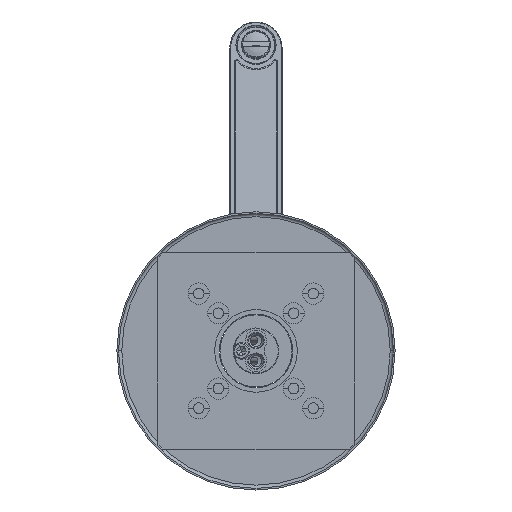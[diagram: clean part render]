
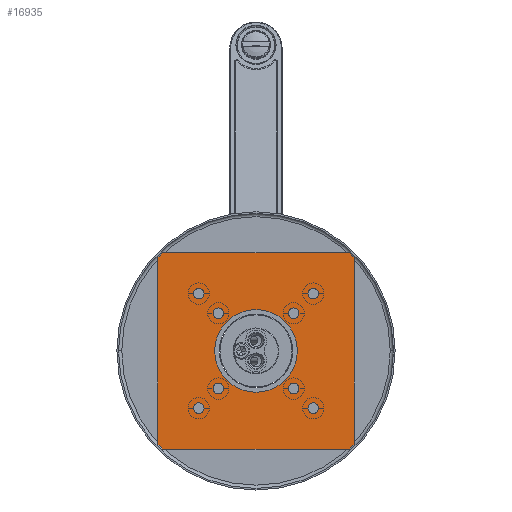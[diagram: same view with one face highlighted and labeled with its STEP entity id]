
A CAD part, front view. The second image highlights one B-rep face of the part: STEP entity #16935.
In plain terms, the highlighted planar face has unit normal (0, -1, 0).
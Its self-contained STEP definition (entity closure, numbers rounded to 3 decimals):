
#16191=DIRECTION('',(-0.707,0.,-0.707));
#16192=VECTOR('',#16191,4.243);
#16193=CARTESIAN_POINT('',(-57.,-916.,60.));
#16194=LINE('',#16193,#16192);
#16195=DIRECTION('',(-1.,0.,0.));
#16196=VECTOR('',#16195,114.);
#16197=CARTESIAN_POINT('',(57.,-916.,60.));
#16198=LINE('',#16197,#16196);
#16199=DIRECTION('',(-0.707,0.,0.707));
#16200=VECTOR('',#16199,4.243);
#16201=CARTESIAN_POINT('',(60.,-916.,57.));
#16202=LINE('',#16201,#16200);
#16203=DIRECTION('',(0.,0.,1.));
#16204=VECTOR('',#16203,114.);
#16205=CARTESIAN_POINT('',(60.,-916.,-57.));
#16206=LINE('',#16205,#16204);
#16207=DIRECTION('',(0.707,0.,0.707));
#16208=VECTOR('',#16207,4.243);
#16209=CARTESIAN_POINT('',(57.,-916.,-60.));
#16210=LINE('',#16209,#16208);
#16211=DIRECTION('',(1.,0.,0.));
#16212=VECTOR('',#16211,114.);
#16213=CARTESIAN_POINT('',(-57.,-916.,-60.));
#16214=LINE('',#16213,#16212);
#16215=DIRECTION('',(0.707,0.,-0.707));
#16216=VECTOR('',#16215,4.243);
#16217=CARTESIAN_POINT('',(-60.,-916.,-57.));
#16218=LINE('',#16217,#16216);
#16219=DIRECTION('',(0.,0.,-1.));
#16220=VECTOR('',#16219,114.);
#16221=CARTESIAN_POINT('',(-60.,-916.,57.));
#16222=LINE('',#16221,#16220);
#16223=CARTESIAN_POINT('',(-35.,-916.,35.));
#16224=DIRECTION('',(0.,1.,0.));
#16225=DIRECTION('',(1.,0.,0.));
#16226=AXIS2_PLACEMENT_3D('',#16223,#16224,#16225);
#16228=CARTESIAN_POINT('',(-35.,-916.,35.));
#16229=DIRECTION('',(0.,1.,0.));
#16230=DIRECTION('',(-1.,0.,0.));
#16231=AXIS2_PLACEMENT_3D('',#16228,#16229,#16230);
#16233=CARTESIAN_POINT('',(35.,-916.,35.));
#16234=DIRECTION('',(0.,1.,0.));
#16235=DIRECTION('',(1.,0.,0.));
#16236=AXIS2_PLACEMENT_3D('',#16233,#16234,#16235);
#16238=CARTESIAN_POINT('',(35.,-916.,35.));
#16239=DIRECTION('',(0.,1.,0.));
#16240=DIRECTION('',(-1.,0.,0.));
#16241=AXIS2_PLACEMENT_3D('',#16238,#16239,#16240);
#16243=CARTESIAN_POINT('',(35.,-916.,-35.));
#16244=DIRECTION('',(0.,1.,0.));
#16245=DIRECTION('',(1.,0.,0.));
#16246=AXIS2_PLACEMENT_3D('',#16243,#16244,#16245);
#16248=CARTESIAN_POINT('',(35.,-916.,-35.));
#16249=DIRECTION('',(0.,1.,0.));
#16250=DIRECTION('',(-1.,0.,0.));
#16251=AXIS2_PLACEMENT_3D('',#16248,#16249,#16250);
#16253=CARTESIAN_POINT('',(-35.,-916.,-35.));
#16254=DIRECTION('',(0.,1.,0.));
#16255=DIRECTION('',(1.,0.,0.));
#16256=AXIS2_PLACEMENT_3D('',#16253,#16254,#16255);
#16258=CARTESIAN_POINT('',(-35.,-916.,-35.));
#16259=DIRECTION('',(0.,1.,0.));
#16260=DIRECTION('',(-1.,0.,0.));
#16261=AXIS2_PLACEMENT_3D('',#16258,#16259,#16260);
#16263=CARTESIAN_POINT('',(-23.,-916.,-23.));
#16264=DIRECTION('',(0.,-1.,0.));
#16265=DIRECTION('',(-1.,0.,0.));
#16266=AXIS2_PLACEMENT_3D('',#16263,#16264,#16265);
#16277=CARTESIAN_POINT('',(-23.,-916.,-23.));
#16278=DIRECTION('',(0.,-1.,0.));
#16279=DIRECTION('',(1.,0.,0.));
#16280=AXIS2_PLACEMENT_3D('',#16277,#16278,#16279);
#16295=CARTESIAN_POINT('',(23.,-916.,-23.));
#16296=DIRECTION('',(0.,-1.,0.));
#16297=DIRECTION('',(-1.,0.,0.));
#16298=AXIS2_PLACEMENT_3D('',#16295,#16296,#16297);
#16309=CARTESIAN_POINT('',(23.,-916.,-23.));
#16310=DIRECTION('',(0.,-1.,0.));
#16311=DIRECTION('',(1.,0.,0.));
#16312=AXIS2_PLACEMENT_3D('',#16309,#16310,#16311);
#16331=CARTESIAN_POINT('',(23.,-916.,23.));
#16332=DIRECTION('',(0.,-1.,0.));
#16333=DIRECTION('',(-1.,0.,0.));
#16334=AXIS2_PLACEMENT_3D('',#16331,#16332,#16333);
#16345=CARTESIAN_POINT('',(23.,-916.,23.));
#16346=DIRECTION('',(0.,-1.,0.));
#16347=DIRECTION('',(1.,0.,0.));
#16348=AXIS2_PLACEMENT_3D('',#16345,#16346,#16347);
#16367=CARTESIAN_POINT('',(-23.,-916.,23.));
#16368=DIRECTION('',(0.,-1.,0.));
#16369=DIRECTION('',(-1.,0.,0.));
#16370=AXIS2_PLACEMENT_3D('',#16367,#16368,#16369);
#16381=CARTESIAN_POINT('',(-23.,-916.,23.));
#16382=DIRECTION('',(0.,-1.,0.));
#16383=DIRECTION('',(1.,0.,0.));
#16384=AXIS2_PLACEMENT_3D('',#16381,#16382,#16383);
#16403=CARTESIAN_POINT('',(0.,-916.,0.));
#16404=DIRECTION('',(0.,-1.,0.));
#16405=DIRECTION('',(-1.,0.,0.));
#16406=AXIS2_PLACEMENT_3D('',#16403,#16404,#16405);
#16412=CARTESIAN_POINT('',(0.,-916.,0.));
#16413=DIRECTION('',(0.,-1.,0.));
#16414=DIRECTION('',(1.,0.,0.));
#16415=AXIS2_PLACEMENT_3D('',#16412,#16413,#16414);
#16545=CARTESIAN_POINT('',(-60.,-916.,57.));
#16546=CARTESIAN_POINT('',(-60.,-916.,-57.));
#16547=VERTEX_POINT('',#16545);
#16548=VERTEX_POINT('',#16546);
#16549=CARTESIAN_POINT('',(-57.,-916.,-60.));
#16550=CARTESIAN_POINT('',(57.,-916.,-60.));
#16551=VERTEX_POINT('',#16549);
#16552=VERTEX_POINT('',#16550);
#16553=CARTESIAN_POINT('',(60.,-916.,-57.));
#16554=CARTESIAN_POINT('',(60.,-916.,57.));
#16555=VERTEX_POINT('',#16553);
#16556=VERTEX_POINT('',#16554);
#16557=CARTESIAN_POINT('',(57.,-916.,60.));
#16558=CARTESIAN_POINT('',(-57.,-916.,60.));
#16559=VERTEX_POINT('',#16557);
#16560=VERTEX_POINT('',#16558);
#16561=CARTESIAN_POINT('',(-31.75,-916.,35.));
#16562=CARTESIAN_POINT('',(-38.25,-916.,35.));
#16563=VERTEX_POINT('',#16561);
#16564=VERTEX_POINT('',#16562);
#16565=CARTESIAN_POINT('',(38.25,-916.,35.));
#16566=CARTESIAN_POINT('',(31.75,-916.,35.));
#16567=VERTEX_POINT('',#16565);
#16568=VERTEX_POINT('',#16566);
#16569=CARTESIAN_POINT('',(38.25,-916.,-35.));
#16570=CARTESIAN_POINT('',(31.75,-916.,-35.));
#16571=VERTEX_POINT('',#16569);
#16572=VERTEX_POINT('',#16570);
#16573=CARTESIAN_POINT('',(-31.75,-916.,-35.));
#16574=CARTESIAN_POINT('',(-38.25,-916.,-35.));
#16575=VERTEX_POINT('',#16573);
#16576=VERTEX_POINT('',#16574);
#16641=CARTESIAN_POINT('',(-25.25,-916.,0.));
#16642=CARTESIAN_POINT('',(25.25,-916.,0.));
#16643=VERTEX_POINT('',#16641);
#16644=VERTEX_POINT('',#16642);
#16645=CARTESIAN_POINT('',(-26.25,-916.,23.));
#16646=CARTESIAN_POINT('',(-19.75,-916.,23.));
#16647=VERTEX_POINT('',#16645);
#16648=VERTEX_POINT('',#16646);
#16649=CARTESIAN_POINT('',(19.75,-916.,23.));
#16650=CARTESIAN_POINT('',(26.25,-916.,23.));
#16651=VERTEX_POINT('',#16649);
#16652=VERTEX_POINT('',#16650);
#16653=CARTESIAN_POINT('',(19.75,-916.,-23.));
#16654=CARTESIAN_POINT('',(26.25,-916.,-23.));
#16655=VERTEX_POINT('',#16653);
#16656=VERTEX_POINT('',#16654);
#16657=CARTESIAN_POINT('',(-26.25,-916.,-23.));
#16658=CARTESIAN_POINT('',(-19.75,-916.,-23.));
#16659=VERTEX_POINT('',#16657);
#16660=VERTEX_POINT('',#16658);
#16866=CARTESIAN_POINT('',(0.,-916.,0.));
#16867=DIRECTION('',(0.,-1.,0.));
#16868=DIRECTION('',(1.,0.,0.));
#16869=AXIS2_PLACEMENT_3D('',#16866,#16867,#16868);
#16870=PLANE('',#16869);
#16871=ORIENTED_EDGE('',*,*,#16762,.F.);
#16872=ORIENTED_EDGE('',*,*,#16777,.F.);
#16873=ORIENTED_EDGE('',*,*,#16791,.F.);
#16874=ORIENTED_EDGE('',*,*,#16805,.F.);
#16875=ORIENTED_EDGE('',*,*,#16819,.F.);
#16876=ORIENTED_EDGE('',*,*,#16833,.F.);
#16877=ORIENTED_EDGE('',*,*,#16847,.F.);
#16878=ORIENTED_EDGE('',*,*,#16860,.F.);
#16879=EDGE_LOOP('',(#16871,#16872,#16873,#16874,#16875,#16876,#16877,#16878));
#16880=FACE_OUTER_BOUND('',#16879,.F.);
#16882=ORIENTED_EDGE('',*,*,#16881,.T.);
#16884=ORIENTED_EDGE('',*,*,#16883,.T.);
#16885=EDGE_LOOP('',(#16882,#16884));
#16886=FACE_BOUND('',#16885,.F.);
#16888=ORIENTED_EDGE('',*,*,#16887,.T.);
#16890=ORIENTED_EDGE('',*,*,#16889,.T.);
#16891=EDGE_LOOP('',(#16888,#16890));
#16892=FACE_BOUND('',#16891,.F.);
#16894=ORIENTED_EDGE('',*,*,#16893,.T.);
#16896=ORIENTED_EDGE('',*,*,#16895,.T.);
#16897=EDGE_LOOP('',(#16894,#16896));
#16898=FACE_BOUND('',#16897,.F.);
#16900=ORIENTED_EDGE('',*,*,#16899,.T.);
#16902=ORIENTED_EDGE('',*,*,#16901,.T.);
#16903=EDGE_LOOP('',(#16900,#16902));
#16904=FACE_BOUND('',#16903,.F.);
#16906=ORIENTED_EDGE('',*,*,#16905,.T.);
#16908=ORIENTED_EDGE('',*,*,#16907,.T.);
#16909=EDGE_LOOP('',(#16906,#16908));
#16910=FACE_BOUND('',#16909,.F.);
#16912=ORIENTED_EDGE('',*,*,#16911,.F.);
#16914=ORIENTED_EDGE('',*,*,#16913,.F.);
#16915=EDGE_LOOP('',(#16912,#16914));
#16916=FACE_BOUND('',#16915,.F.);
#16918=ORIENTED_EDGE('',*,*,#16917,.F.);
#16920=ORIENTED_EDGE('',*,*,#16919,.F.);
#16921=EDGE_LOOP('',(#16918,#16920));
#16922=FACE_BOUND('',#16921,.F.);
#16924=ORIENTED_EDGE('',*,*,#16923,.F.);
#16926=ORIENTED_EDGE('',*,*,#16925,.F.);
#16927=EDGE_LOOP('',(#16924,#16926));
#16928=FACE_BOUND('',#16927,.F.);
#16930=ORIENTED_EDGE('',*,*,#16929,.F.);
#16932=ORIENTED_EDGE('',*,*,#16931,.F.);
#16933=EDGE_LOOP('',(#16930,#16932));
#16934=FACE_BOUND('',#16933,.F.);
#16935=ADVANCED_FACE('',(#16880,#16886,#16892,#16898,#16904,#16910,#16916,
#16922,#16928,#16934),#16870,.T.);
#16227=CIRCLE('',#16226,3.25);
#16232=CIRCLE('',#16231,3.25);
#16237=CIRCLE('',#16236,3.25);
#16242=CIRCLE('',#16241,3.25);
#16247=CIRCLE('',#16246,3.25);
#16252=CIRCLE('',#16251,3.25);
#16257=CIRCLE('',#16256,3.25);
#16262=CIRCLE('',#16261,3.25);
#16267=CIRCLE('',#16266,3.25);
#16281=CIRCLE('',#16280,3.25);
#16299=CIRCLE('',#16298,3.25);
#16313=CIRCLE('',#16312,3.25);
#16335=CIRCLE('',#16334,3.25);
#16349=CIRCLE('',#16348,3.25);
#16371=CIRCLE('',#16370,3.25);
#16385=CIRCLE('',#16384,3.25);
#16407=CIRCLE('',#16406,25.25);
#16416=CIRCLE('',#16415,25.25);
#16762=EDGE_CURVE('',#16560,#16547,#16194,.T.);
#16777=EDGE_CURVE('',#16559,#16560,#16198,.T.);
#16791=EDGE_CURVE('',#16556,#16559,#16202,.T.);
#16805=EDGE_CURVE('',#16555,#16556,#16206,.T.);
#16819=EDGE_CURVE('',#16552,#16555,#16210,.T.);
#16833=EDGE_CURVE('',#16551,#16552,#16214,.T.);
#16847=EDGE_CURVE('',#16548,#16551,#16218,.T.);
#16860=EDGE_CURVE('',#16547,#16548,#16222,.T.);
#16881=EDGE_CURVE('',#16655,#16656,#16299,.T.);
#16883=EDGE_CURVE('',#16656,#16655,#16313,.T.);
#16887=EDGE_CURVE('',#16651,#16652,#16335,.T.);
#16889=EDGE_CURVE('',#16652,#16651,#16349,.T.);
#16893=EDGE_CURVE('',#16647,#16648,#16371,.T.);
#16895=EDGE_CURVE('',#16648,#16647,#16385,.T.);
#16899=EDGE_CURVE('',#16643,#16644,#16407,.T.);
#16901=EDGE_CURVE('',#16644,#16643,#16416,.T.);
#16905=EDGE_CURVE('',#16659,#16660,#16267,.T.);
#16907=EDGE_CURVE('',#16660,#16659,#16281,.T.);
#16911=EDGE_CURVE('',#16563,#16564,#16227,.T.);
#16913=EDGE_CURVE('',#16564,#16563,#16232,.T.);
#16917=EDGE_CURVE('',#16567,#16568,#16237,.T.);
#16919=EDGE_CURVE('',#16568,#16567,#16242,.T.);
#16923=EDGE_CURVE('',#16571,#16572,#16247,.T.);
#16925=EDGE_CURVE('',#16572,#16571,#16252,.T.);
#16929=EDGE_CURVE('',#16575,#16576,#16257,.T.);
#16931=EDGE_CURVE('',#16576,#16575,#16262,.T.);
